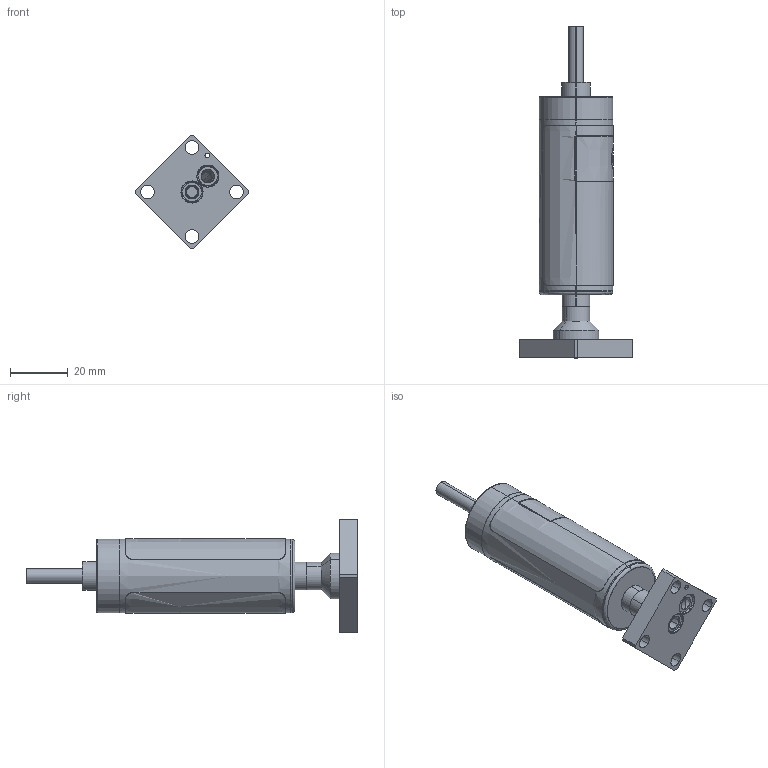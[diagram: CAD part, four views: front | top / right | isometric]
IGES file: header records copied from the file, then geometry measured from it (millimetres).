
Start section: SolidWorks IGES file using analytic representation for surfaces
Global section: file name: R:\Brooks Instrument\25-0024 SSII CAD File Generation\Client Files\SSII CAD Models for Website\CAD for Brooks Website\Example\GSD\GSD-XXXXXX-P-XXX-CS\IGES\GSD-XXXXXX-P-XXX-CS.IGS; native system: SolidWorks 2023; preprocessor: SolidWorks 2023; author: dgoddard; date: 250623.094705; units: inch
Bounding box: 39.33 x 114.68 x 39.33 mm (x, y, z)
Surface area: 17280.6 mm2 (no closed solid volume)
Topology: 0 solids, 0 shells, 211 faces, 3051 edges, 3047 vertices
Faces by surface type: bspline 122, revolution 89
